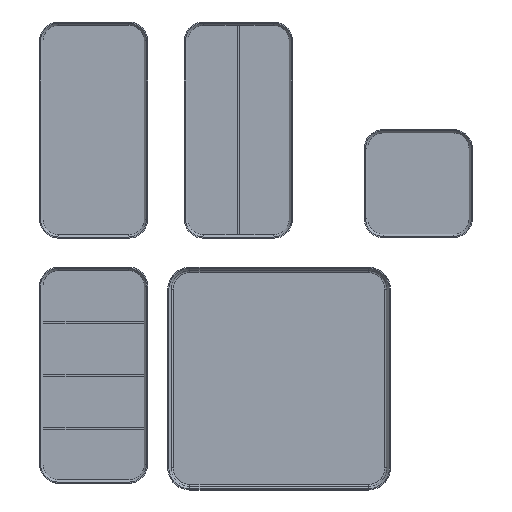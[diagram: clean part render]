
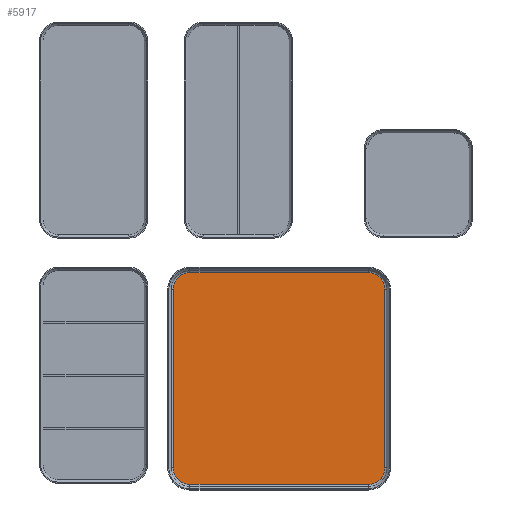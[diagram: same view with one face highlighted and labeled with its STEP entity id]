
A CAD part, top view. The second image highlights one B-rep face of the part: STEP entity #5917.
In plain terms, the highlighted planar face has unit normal (0, 0, 1).
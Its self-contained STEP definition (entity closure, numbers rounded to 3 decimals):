
#132=CIRCLE('',#6282,15.);
#136=CIRCLE('',#6288,15.);
#140=CIRCLE('',#6294,15.);
#143=CIRCLE('',#6299,15.);
#516=FACE_OUTER_BOUND('',#872,.T.);
#872=EDGE_LOOP('',(#4498,#4499,#4500,#4501,#4502,#4503,#4504,#4505));
#1439=LINE('',#9238,#2099);
#1440=LINE('',#9249,#2100);
#1442=LINE('',#9261,#2102);
#1444=LINE('',#9273,#2104);
#2099=VECTOR('',#7302,10.);
#2100=VECTOR('',#7315,10.);
#2102=VECTOR('',#7329,10.);
#2104=VECTOR('',#7343,10.);
#2662=VERTEX_POINT('',#9231);
#2665=VERTEX_POINT('',#9236);
#2667=VERTEX_POINT('',#9241);
#2669=VERTEX_POINT('',#9247);
#2671=VERTEX_POINT('',#9253);
#2673=VERTEX_POINT('',#9259);
#2675=VERTEX_POINT('',#9265);
#2677=VERTEX_POINT('',#9271);
#3331=EDGE_CURVE('',#2665,#2662,#1439,.T.);
#3333=EDGE_CURVE('',#2667,#2665,#132,.T.);
#3336=EDGE_CURVE('',#2669,#2667,#1440,.T.);
#3339=EDGE_CURVE('',#2671,#2669,#136,.T.);
#3342=EDGE_CURVE('',#2673,#2671,#1442,.T.);
#3345=EDGE_CURVE('',#2675,#2673,#140,.T.);
#3348=EDGE_CURVE('',#2677,#2675,#1444,.T.);
#3350=EDGE_CURVE('',#2662,#2677,#143,.T.);
#4498=ORIENTED_EDGE('',*,*,#3331,.F.);
#4499=ORIENTED_EDGE('',*,*,#3333,.F.);
#4500=ORIENTED_EDGE('',*,*,#3336,.F.);
#4501=ORIENTED_EDGE('',*,*,#3339,.F.);
#4502=ORIENTED_EDGE('',*,*,#3342,.F.);
#4503=ORIENTED_EDGE('',*,*,#3345,.F.);
#4504=ORIENTED_EDGE('',*,*,#3348,.F.);
#4505=ORIENTED_EDGE('',*,*,#3350,.F.);
#5660=PLANE('',#6307);
#5917=ADVANCED_FACE('',(#516),#5660,.T.);
#6282=AXIS2_PLACEMENT_3D('',#9243,#7307,#7308);
#6288=AXIS2_PLACEMENT_3D('',#9255,#7321,#7322);
#6294=AXIS2_PLACEMENT_3D('',#9267,#7335,#7336);
#6299=AXIS2_PLACEMENT_3D('',#9276,#7347,#7348);
#6307=AXIS2_PLACEMENT_3D('',#9296,#7370,#7371);
#7302=DIRECTION('',(0.,-1.,0.));
#7307=DIRECTION('center_axis',(0.,0.,-1.));
#7308=DIRECTION('ref_axis',(0.707,0.707,0.));
#7315=DIRECTION('',(1.,0.,0.));
#7321=DIRECTION('center_axis',(0.,0.,-1.));
#7322=DIRECTION('ref_axis',(-0.707,0.707,0.));
#7329=DIRECTION('',(0.,1.,0.));
#7335=DIRECTION('center_axis',(0.,0.,-1.));
#7336=DIRECTION('ref_axis',(-0.707,-0.707,0.));
#7343=DIRECTION('',(-1.,0.,0.));
#7347=DIRECTION('center_axis',(0.,0.,-1.));
#7348=DIRECTION('ref_axis',(0.707,-0.707,0.));
#7370=DIRECTION('center_axis',(0.,0.,1.));
#7371=DIRECTION('ref_axis',(1.,0.,0.));
#9231=CARTESIAN_POINT('',(95.,-80.,5.));
#9236=CARTESIAN_POINT('',(95.,80.,5.));
#9238=CARTESIAN_POINT('',(95.,40.,5.));
#9241=CARTESIAN_POINT('',(80.,95.,5.));
#9243=CARTESIAN_POINT('Origin',(80.,80.,5.));
#9247=CARTESIAN_POINT('',(-80.,95.,5.));
#9249=CARTESIAN_POINT('',(-40.,95.,5.));
#9253=CARTESIAN_POINT('',(-95.,80.,5.));
#9255=CARTESIAN_POINT('Origin',(-80.,80.,5.));
#9259=CARTESIAN_POINT('',(-95.,-80.,5.));
#9261=CARTESIAN_POINT('',(-95.,-40.,5.));
#9265=CARTESIAN_POINT('',(-80.,-95.,5.));
#9267=CARTESIAN_POINT('Origin',(-80.,-80.,5.));
#9271=CARTESIAN_POINT('',(80.,-95.,5.));
#9273=CARTESIAN_POINT('',(40.,-95.,5.));
#9276=CARTESIAN_POINT('Origin',(80.,-80.,5.));
#9296=CARTESIAN_POINT('Origin',(0.,0.,5.));
